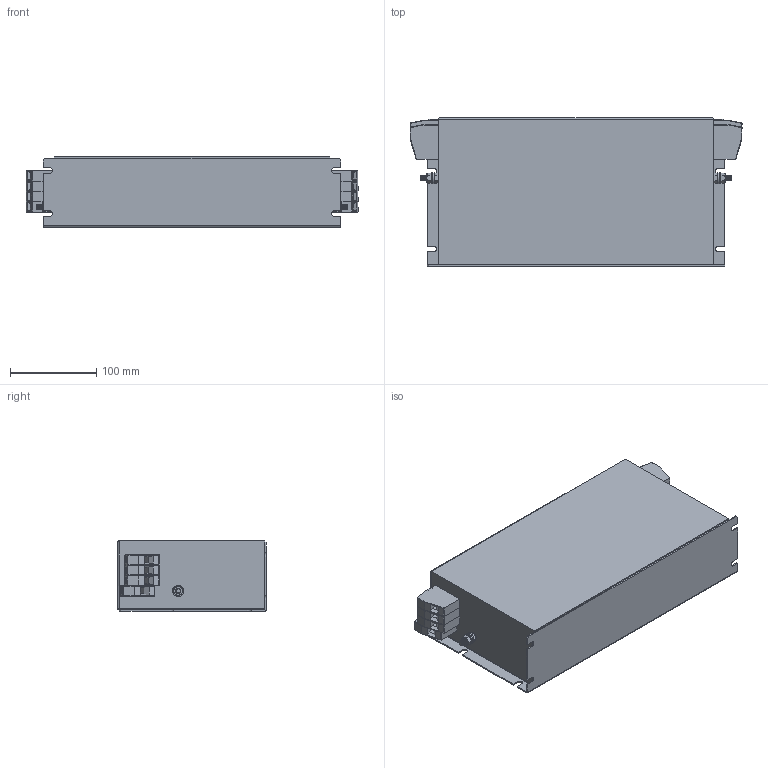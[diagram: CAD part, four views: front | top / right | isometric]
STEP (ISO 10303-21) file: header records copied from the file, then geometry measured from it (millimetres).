
FILE_DESCRIPTION (( 'STEP AP203' ), '1' );
FILE_NAME ('NF-K-4-55.STEP', '2025-04-10T13:27:24', ( '' ), ( '' ), 'SwSTEP 2.0', 'SolidWorks 2017', '' );
FILE_SCHEMA (( 'CONFIG_CONTROL_DESIGN' ));
Length unit declared in the file: millimetre
Products named in the file (7): S4 Case; HDFK-16; hex screw_am (dont use)_B18.6.7M - M6 x 1.0 x 16 Indented HHMS --16S; M6x16 Earth post; hex nut style 1_am_B18.2.4.1M - Hex nut, Style 1,  M6 x 1 --D-N; flat washer narrow_am_B18.22M - Plain washer, 6 mm, narrow; NF-K-4-55
Assembly tree (15 placements, depth 3):
  NF-K-4-55
    S4 Case
    M6x16 Earth post  x2
      flat washer narrow_am_B18.22M - Plain washer, 6 mm, narrow
      hex nut style 1_am_B18.2.4.1M - Hex nut, Style 1,  M6 x 1 --D-N
      hex screw_am (dont use)_B18.6.7M - M6 x 1.0 x 16 Indented HHMS --16S
    HDFK-16  x8
Bounding box: 385.01 x 172 x 81.5 mm (x, y, z)
Volume: 4517323.4 mm3; surface area: 292118 mm2
Topology: 17 solids, 17 shells, 960 faces, 2248 edges, 1372 vertices
Faces by surface type: plane 599, cone 200, cylinder 159, sphere 2
Entity records: 9967 total; most frequent: CARTESIAN_POINT 1707, DIRECTION 1590, ORIENTED_EDGE 1484, EDGE_CURVE 742, AXIS2_PLACEMENT_3D 569, VERTEX_POINT 462, VECTOR 452, LINE 452
